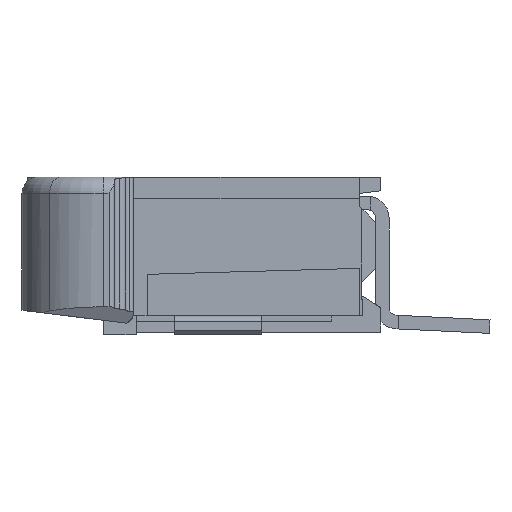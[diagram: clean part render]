
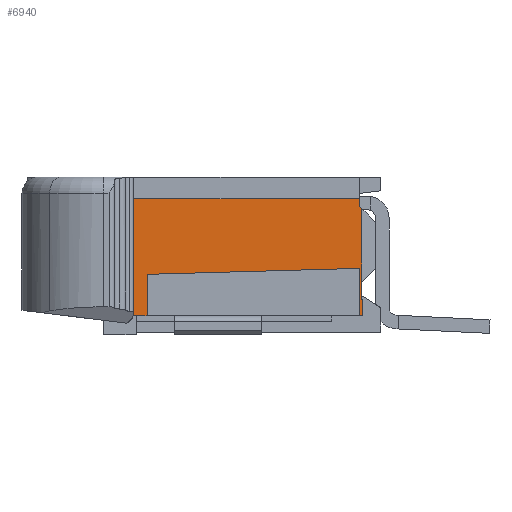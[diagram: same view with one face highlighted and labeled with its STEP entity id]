
A CAD part, left-side view. The second image highlights one B-rep face of the part: STEP entity #6940.
In plain terms, the highlighted planar face has unit normal (-1, 0, 0).
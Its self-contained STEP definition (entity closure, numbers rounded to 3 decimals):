
#152 = DIRECTION ( 'NONE',  ( 0., -0.028, -1. ) ) ;
#161 = VECTOR ( 'NONE', #6821, 1000. ) ;
#176 = VECTOR ( 'NONE', #978, 1000. ) ;
#191 = CARTESIAN_POINT ( 'NONE',  ( -8.12, -6.2, 2.5 ) ) ;
#194 = CARTESIAN_POINT ( 'NONE',  ( -8.12, -6.25, 2.32 ) ) ;
#222 = CARTESIAN_POINT ( 'NONE',  ( -8.12, -6.225, 0.945 ) ) ;
#262 = VECTOR ( 'NONE', #4909, 1000. ) ;
#306 = VECTOR ( 'NONE', #4298, 1000. ) ;
#412 = CARTESIAN_POINT ( 'NONE',  ( -8.12, -2.3, 0.92 ) ) ;
#432 = CARTESIAN_POINT ( 'NONE',  ( -8.12, -2.3, 0.35 ) ) ;
#528 = DIRECTION ( 'NONE',  ( -1., 0., 0. ) ) ;
#586 = VECTOR ( 'NONE', #7154, 1000. ) ;
#733 = CARTESIAN_POINT ( 'NONE',  ( -8.12, -6.052, 7.754 ) ) ;
#779 = EDGE_CURVE ( 'NONE', #3674, #1288, #8048, .T. ) ;
#872 = DIRECTION ( 'NONE',  ( 0., 0., -1. ) ) ;
#971 = DIRECTION ( 'NONE',  ( 0., 1., -0.028 ) ) ;
#978 = DIRECTION ( 'NONE',  ( 0., 0., -1. ) ) ;
#1115 = DIRECTION ( 'NONE',  ( 0., 1., 0. ) ) ;
#1170 = VERTEX_POINT ( 'NONE', #7967 ) ;
#1185 = CARTESIAN_POINT ( 'NONE',  ( -8.12, -6.052, 7.754 ) ) ;
#1288 = VERTEX_POINT ( 'NONE', #6056 ) ;
#1334 = ORIENTED_EDGE ( 'NONE', *, *, #8063, .F. ) ;
#1484 = DIRECTION ( 'NONE',  ( 0., 1., 0. ) ) ;
#1531 = AXIS2_PLACEMENT_3D ( 'NONE', #3658, #6608, #9565 ) ;
#1548 = CARTESIAN_POINT ( 'NONE',  ( -8.12, -6.405, 0.35 ) ) ;
#1638 = ORIENTED_EDGE ( 'NONE', *, *, #1796, .T. ) ;
#1735 = VECTOR ( 'NONE', #152, 1000. ) ;
#1763 = VERTEX_POINT ( 'NONE', #194 ) ;
#1771 = CARTESIAN_POINT ( 'NONE',  ( -8.12, -6.261, 0.35 ) ) ;
#1796 = EDGE_CURVE ( 'NONE', #4489, #4040, #7852, .T. ) ;
#1838 = LINE ( 'NONE', #3252, #7163 ) ;
#1847 = VERTEX_POINT ( 'NONE', #5578 ) ;
#1878 = FACE_OUTER_BOUND ( 'NONE', #3849, .T. ) ;
#1903 = ORIENTED_EDGE ( 'NONE', *, *, #779, .F. ) ;
#1951 = LINE ( 'NONE', #3325, #262 ) ;
#1955 = LINE ( 'NONE', #3560, #6320 ) ;
#2053 = CARTESIAN_POINT ( 'NONE',  ( -8.12, -6.052, 2.5 ) ) ;
#2369 = VERTEX_POINT ( 'NONE', #2949 ) ;
#2388 = VERTEX_POINT ( 'NONE', #2607 ) ;
#2402 = CARTESIAN_POINT ( 'NONE',  ( -8.12, -6.25, 0.97 ) ) ;
#2535 = ORIENTED_EDGE ( 'NONE', *, *, #5821, .T. ) ;
#2607 = CARTESIAN_POINT ( 'NONE',  ( -8.12, -1.5, 2.37 ) ) ;
#2633 = ORIENTED_EDGE ( 'NONE', *, *, #7150, .F. ) ;
#2742 = VERTEX_POINT ( 'NONE', #5654 ) ;
#2829 = CARTESIAN_POINT ( 'NONE',  ( -8.12, -6.2, 1.223 ) ) ;
#2830 = ORIENTED_EDGE ( 'NONE', *, *, #5811, .F. ) ;
#2887 = DIRECTION ( 'NONE',  ( 0., -0.707, -0.707 ) ) ;
#2949 = CARTESIAN_POINT ( 'NONE',  ( -8.12, -6.204, 2.366 ) ) ;
#3038 = EDGE_CURVE ( 'NONE', #1170, #6550, #1838, .T. ) ;
#3047 = VECTOR ( 'NONE', #7973, 1000. ) ;
#3158 = LINE ( 'NONE', #8881, #176 ) ;
#3199 = LINE ( 'NONE', #8491, #4372 ) ;
#3252 = CARTESIAN_POINT ( 'NONE',  ( -8.12, -6.2, 7.754 ) ) ;
#3325 = CARTESIAN_POINT ( 'NONE',  ( -8.12, -6.052, 2.37 ) ) ;
#3352 = EDGE_CURVE ( 'NONE', #4111, #1847, #3199, .T. ) ;
#3376 = ORIENTED_EDGE ( 'NONE', *, *, #4299, .F. ) ;
#3527 = VECTOR ( 'NONE', #872, 1000. ) ;
#3560 = CARTESIAN_POINT ( 'NONE',  ( -8.12, -2.05, 7.754 ) ) ;
#3609 = VERTEX_POINT ( 'NONE', #7364 ) ;
#3658 = CARTESIAN_POINT ( 'NONE',  ( -8.12, -1.85, 0.4 ) ) ;
#3674 = VERTEX_POINT ( 'NONE', #8176 ) ;
#3849 = EDGE_LOOP ( 'NONE', ( #2633, #2830, #8053, #6981, #9187, #4767, #7663, #3376, #7604, #5251, #1334, #2535, #1638, #6847, #4465, #8238, #1903 ) ) ;
#3893 = VERTEX_POINT ( 'NONE', #1771 ) ;
#4040 = VERTEX_POINT ( 'NONE', #8645 ) ;
#4111 = VERTEX_POINT ( 'NONE', #2829 ) ;
#4134 = CARTESIAN_POINT ( 'NONE',  ( -8.12, -6.052, 2.5 ) ) ;
#4184 = EDGE_CURVE ( 'NONE', #6791, #1763, #5259, .T. ) ;
#4298 = DIRECTION ( 'NONE',  ( 0., 1., 0. ) ) ;
#4299 = EDGE_CURVE ( 'NONE', #6791, #2742, #7739, .T. ) ;
#4308 = LINE ( 'NONE', #6682, #7755 ) ;
#4372 = VECTOR ( 'NONE', #971, 1000. ) ;
#4465 = ORIENTED_EDGE ( 'NONE', *, *, #4832, .T. ) ;
#4489 = VERTEX_POINT ( 'NONE', #7248 ) ;
#4706 = EDGE_CURVE ( 'NONE', #4111, #1170, #8251, .T. ) ;
#4767 = ORIENTED_EDGE ( 'NONE', *, *, #6354, .F. ) ;
#4832 = EDGE_CURVE ( 'NONE', #2388, #3609, #1951, .T. ) ;
#4909 = DIRECTION ( 'NONE',  ( 0., -1., 0. ) ) ;
#5122 = VECTOR ( 'NONE', #1115, 1000. ) ;
#5140 = LINE ( 'NONE', #8136, #8181 ) ;
#5240 = LINE ( 'NONE', #1548, #306 ) ;
#5251 = ORIENTED_EDGE ( 'NONE', *, *, #7841, .F. ) ;
#5259 = LINE ( 'NONE', #7347, #7868 ) ;
#5356 = DIRECTION ( 'NONE',  ( 0., 0.707, -0.707 ) ) ;
#5578 = CARTESIAN_POINT ( 'NONE',  ( -8.12, -2.3, 1.113 ) ) ;
#5654 = CARTESIAN_POINT ( 'NONE',  ( -8.12, -6.243, 0.963 ) ) ;
#5811 = EDGE_CURVE ( 'NONE', #1847, #6616, #9367, .T. ) ;
#5821 = EDGE_CURVE ( 'NONE', #6441, #4489, #7101, .T. ) ;
#5829 = EDGE_CURVE ( 'NONE', #3609, #1288, #1955, .T. ) ;
#6056 = CARTESIAN_POINT ( 'NONE',  ( -8.12, -2.05, 0.4 ) ) ;
#6320 = VECTOR ( 'NONE', #9466, 1000. ) ;
#6354 = EDGE_CURVE ( 'NONE', #3893, #6550, #5140, .T. ) ;
#6441 = VERTEX_POINT ( 'NONE', #191 ) ;
#6550 = VERTEX_POINT ( 'NONE', #8232 ) ;
#6608 = DIRECTION ( 'NONE',  ( -1., 0., 0. ) ) ;
#6616 = VERTEX_POINT ( 'NONE', #432 ) ;
#6625 = VECTOR ( 'NONE', #5356, 1000. ) ;
#6682 = CARTESIAN_POINT ( 'NONE',  ( -8.12, -6.225, 2.345 ) ) ;
#6791 = VERTEX_POINT ( 'NONE', #2402 ) ;
#6798 = LINE ( 'NONE', #733, #1735 ) ;
#6821 = DIRECTION ( 'NONE',  ( 0., -0.028, -1. ) ) ;
#6847 = ORIENTED_EDGE ( 'NONE', *, *, #8775, .T. ) ;
#6918 = CARTESIAN_POINT ( 'NONE',  ( -8.12, -6.052, 7.754 ) ) ;
#6940 = ADVANCED_FACE ( 'NONE', ( #1878 ), #8578, .T. ) ;
#6981 = ORIENTED_EDGE ( 'NONE', *, *, #4706, .T. ) ;
#7101 = LINE ( 'NONE', #2053, #3047 ) ;
#7150 = EDGE_CURVE ( 'NONE', #6616, #3674, #5240, .T. ) ;
#7154 = DIRECTION ( 'NONE',  ( 0., 0., -1. ) ) ;
#7163 = VECTOR ( 'NONE', #7707, 1000. ) ;
#7248 = CARTESIAN_POINT ( 'NONE',  ( -8.12, -1.745, 2.5 ) ) ;
#7347 = CARTESIAN_POINT ( 'NONE',  ( -8.12, -6.25, 1.645 ) ) ;
#7364 = CARTESIAN_POINT ( 'NONE',  ( -8.12, -2.05, 2.37 ) ) ;
#7604 = ORIENTED_EDGE ( 'NONE', *, *, #4184, .T. ) ;
#7663 = ORIENTED_EDGE ( 'NONE', *, *, #9379, .F. ) ;
#7707 = DIRECTION ( 'NONE',  ( 0., 0., -1. ) ) ;
#7739 = LINE ( 'NONE', #222, #6625 ) ;
#7755 = VECTOR ( 'NONE', #2887, 1000. ) ;
#7841 = EDGE_CURVE ( 'NONE', #2369, #1763, #4308, .T. ) ;
#7852 = LINE ( 'NONE', #4134, #5122 ) ;
#7868 = VECTOR ( 'NONE', #8118, 1000. ) ;
#7886 = DIRECTION ( 'NONE',  ( 0., 0., 1. ) ) ;
#7967 = CARTESIAN_POINT ( 'NONE',  ( -8.12, -6.2, 0.85 ) ) ;
#7973 = DIRECTION ( 'NONE',  ( 0., 1., 0. ) ) ;
#8048 = CIRCLE ( 'NONE', #1531, 0.2 ) ;
#8053 = ORIENTED_EDGE ( 'NONE', *, *, #3352, .F. ) ;
#8063 = EDGE_CURVE ( 'NONE', #6441, #2369, #9091, .T. ) ;
#8118 = DIRECTION ( 'NONE',  ( 0., 0., 1. ) ) ;
#8136 = CARTESIAN_POINT ( 'NONE',  ( -8.12, -6.405, 0.35 ) ) ;
#8176 = CARTESIAN_POINT ( 'NONE',  ( -8.12, -2.044, 0.35 ) ) ;
#8181 = VECTOR ( 'NONE', #1484, 1000. ) ;
#8187 = AXIS2_PLACEMENT_3D ( 'NONE', #1185, #528, #7886 ) ;
#8232 = CARTESIAN_POINT ( 'NONE',  ( -8.12, -6.2, 0.35 ) ) ;
#8238 = ORIENTED_EDGE ( 'NONE', *, *, #5829, .T. ) ;
#8251 = LINE ( 'NONE', #9180, #3527 ) ;
#8491 = CARTESIAN_POINT ( 'NONE',  ( -8.12, -6.241, 1.224 ) ) ;
#8578 = PLANE ( 'NONE',  #8187 ) ;
#8645 = CARTESIAN_POINT ( 'NONE',  ( -8.12, -1.5, 2.5 ) ) ;
#8775 = EDGE_CURVE ( 'NONE', #4040, #2388, #3158, .T. ) ;
#8881 = CARTESIAN_POINT ( 'NONE',  ( -8.12, -1.5, 7.754 ) ) ;
#9091 = LINE ( 'NONE', #6918, #161 ) ;
#9180 = CARTESIAN_POINT ( 'NONE',  ( -8.12, -6.2, 7.754 ) ) ;
#9187 = ORIENTED_EDGE ( 'NONE', *, *, #3038, .T. ) ;
#9367 = LINE ( 'NONE', #412, #586 ) ;
#9379 = EDGE_CURVE ( 'NONE', #2742, #3893, #6798, .T. ) ;
#9466 = DIRECTION ( 'NONE',  ( 0., 0., -1. ) ) ;
#9565 = DIRECTION ( 'NONE',  ( 0., -1., 0. ) ) ;
